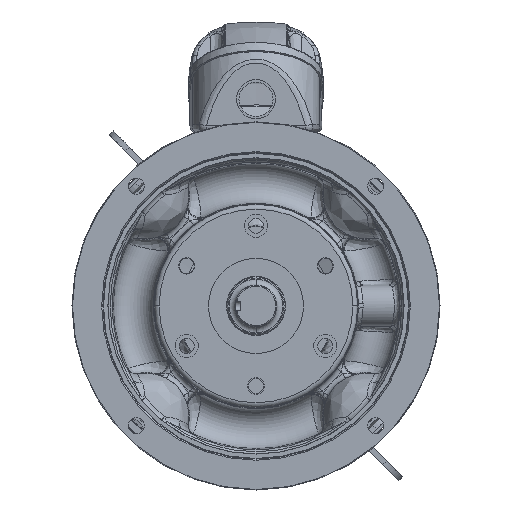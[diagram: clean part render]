
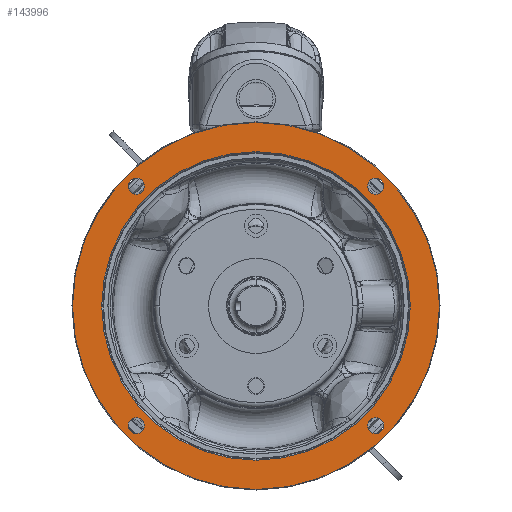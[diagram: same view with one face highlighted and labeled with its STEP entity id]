
A CAD part, front view. The second image highlights one B-rep face of the part: STEP entity #143996.
In plain terms, the highlighted planar face has unit normal (0, -1, 0) as drawn and (0, 0, 1) by its records, which use the part's own axes.
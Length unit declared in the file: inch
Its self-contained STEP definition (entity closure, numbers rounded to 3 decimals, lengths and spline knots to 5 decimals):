
#134333=CARTESIAN_POINT('',(0.,0.,-0.147));
#134334=DIRECTION('',(0.,0.,-1.));
#134335=DIRECTION('',(0.,1.,0.));
#134336=AXIS2_PLACEMENT_3D('',#134333,#134334,#134335);
#134338=CARTESIAN_POINT('',(0.,0.,-0.147));
#134339=DIRECTION('',(0.,0.,1.));
#134340=DIRECTION('',(0.,1.,0.));
#134341=AXIS2_PLACEMENT_3D('',#134338,#134339,#134340);
#134343=CARTESIAN_POINT('',(0.,0.,-0.147));
#134344=DIRECTION('',(0.,0.,1.));
#134345=DIRECTION('',(0.,1.,0.));
#134346=AXIS2_PLACEMENT_3D('',#134343,#134344,#134345);
#134348=CARTESIAN_POINT('',(0.,0.,-0.147));
#134349=DIRECTION('',(0.,0.,1.));
#134350=DIRECTION('',(0.,-1.,0.));
#134351=AXIS2_PLACEMENT_3D('',#134348,#134349,#134350);
#134353=CARTESIAN_POINT('',(-3.22617,3.22617,-0.147));
#134354=DIRECTION('',(0.,0.,-1.));
#134355=DIRECTION('',(-1.,0.,0.));
#134356=AXIS2_PLACEMENT_3D('',#134353,#134354,#134355);
#134358=CARTESIAN_POINT('',(-3.22617,3.22617,-0.147));
#134359=DIRECTION('',(0.,0.,-1.));
#134360=DIRECTION('',(1.,0.,0.));
#134361=AXIS2_PLACEMENT_3D('',#134358,#134359,#134360);
#134363=CARTESIAN_POINT('',(3.22617,3.22617,-0.147));
#134364=DIRECTION('',(0.,0.,-1.));
#134365=DIRECTION('',(-1.,0.,0.));
#134366=AXIS2_PLACEMENT_3D('',#134363,#134364,#134365);
#134368=CARTESIAN_POINT('',(3.22617,3.22617,-0.147));
#134369=DIRECTION('',(0.,0.,-1.));
#134370=DIRECTION('',(1.,0.,0.));
#134371=AXIS2_PLACEMENT_3D('',#134368,#134369,#134370);
#134373=CARTESIAN_POINT('',(3.22617,-3.22617,-0.147));
#134374=DIRECTION('',(0.,0.,-1.));
#134375=DIRECTION('',(-1.,0.,0.));
#134376=AXIS2_PLACEMENT_3D('',#134373,#134374,#134375);
#134378=CARTESIAN_POINT('',(3.22617,-3.22617,-0.147));
#134379=DIRECTION('',(0.,0.,-1.));
#134380=DIRECTION('',(1.,0.,0.));
#134381=AXIS2_PLACEMENT_3D('',#134378,#134379,#134380);
#134383=CARTESIAN_POINT('',(-3.22617,-3.22617,-0.147));
#134384=DIRECTION('',(0.,0.,-1.));
#134385=DIRECTION('',(-1.,0.,0.));
#134386=AXIS2_PLACEMENT_3D('',#134383,#134384,#134385);
#134388=CARTESIAN_POINT('',(-3.22617,-3.22617,-0.147));
#134389=DIRECTION('',(0.,0.,-1.));
#134390=DIRECTION('',(1.,0.,0.));
#134391=AXIS2_PLACEMENT_3D('',#134388,#134389,#134390);
#143623=CARTESIAN_POINT('',(0.,4.156,-0.147));
#143624=VERTEX_POINT('',#143623);
#143651=CARTESIAN_POINT('',(0.,-4.156,-0.147));
#143652=VERTEX_POINT('',#143651);
#143657=CARTESIAN_POINT('',(0.,4.94385,-0.147));
#143658=CARTESIAN_POINT('',(0.,-4.94385,-0.147));
#143659=VERTEX_POINT('',#143657);
#143660=VERTEX_POINT('',#143658);
#143801=CARTESIAN_POINT('',(-3.44517,3.22617,-0.147));
#143802=CARTESIAN_POINT('',(-3.00717,3.22617,-0.147));
#143803=VERTEX_POINT('',#143801);
#143804=VERTEX_POINT('',#143802);
#143809=CARTESIAN_POINT('',(3.00717,3.22617,-0.147));
#143810=CARTESIAN_POINT('',(3.44517,3.22617,-0.147));
#143811=VERTEX_POINT('',#143809);
#143812=VERTEX_POINT('',#143810);
#143817=CARTESIAN_POINT('',(3.00717,-3.22617,-0.147));
#143818=CARTESIAN_POINT('',(3.44517,-3.22617,-0.147));
#143819=VERTEX_POINT('',#143817);
#143820=VERTEX_POINT('',#143818);
#143825=CARTESIAN_POINT('',(-3.44517,-3.22617,-0.147));
#143826=CARTESIAN_POINT('',(-3.00717,-3.22617,-0.147));
#143827=VERTEX_POINT('',#143825);
#143828=VERTEX_POINT('',#143826);
#143956=CARTESIAN_POINT('',(0.,0.,-0.147));
#143957=DIRECTION('',(0.,0.,1.));
#143958=DIRECTION('',(0.,1.,0.));
#143959=AXIS2_PLACEMENT_3D('',#143956,#143957,#143958);
#143960=PLANE('',#143959);
#143961=ORIENTED_EDGE('',*,*,#143945,.F.);
#143963=ORIENTED_EDGE('',*,*,#143962,.F.);
#143964=EDGE_LOOP('',(#143961,#143963));
#143965=FACE_OUTER_BOUND('',#143964,.F.);
#143967=ORIENTED_EDGE('',*,*,#143966,.F.);
#143969=ORIENTED_EDGE('',*,*,#143968,.T.);
#143970=EDGE_LOOP('',(#143967,#143969));
#143971=FACE_BOUND('',#143970,.F.);
#143973=ORIENTED_EDGE('',*,*,#143972,.F.);
#143975=ORIENTED_EDGE('',*,*,#143974,.F.);
#143976=EDGE_LOOP('',(#143973,#143975));
#143977=FACE_BOUND('',#143976,.F.);
#143979=ORIENTED_EDGE('',*,*,#143978,.F.);
#143981=ORIENTED_EDGE('',*,*,#143980,.F.);
#143982=EDGE_LOOP('',(#143979,#143981));
#143983=FACE_BOUND('',#143982,.F.);
#143985=ORIENTED_EDGE('',*,*,#143984,.F.);
#143987=ORIENTED_EDGE('',*,*,#143986,.F.);
#143988=EDGE_LOOP('',(#143985,#143987));
#143989=FACE_BOUND('',#143988,.F.);
#143991=ORIENTED_EDGE('',*,*,#143990,.F.);
#143993=ORIENTED_EDGE('',*,*,#143992,.F.);
#143994=EDGE_LOOP('',(#143991,#143993));
#143995=FACE_BOUND('',#143994,.F.);
#143996=ADVANCED_FACE('',(#143965,#143971,#143977,#143983,#143989,#143995),
#143960,.T.);
#134337=CIRCLE('',#134336,4.156);
#134342=CIRCLE('',#134341,4.156);
#134347=CIRCLE('',#134346,4.94385);
#134352=CIRCLE('',#134351,4.94385);
#134357=CIRCLE('',#134356,0.219);
#134362=CIRCLE('',#134361,0.219);
#134367=CIRCLE('',#134366,0.219);
#134372=CIRCLE('',#134371,0.219);
#134377=CIRCLE('',#134376,0.219);
#134382=CIRCLE('',#134381,0.219);
#134387=CIRCLE('',#134386,0.219);
#134392=CIRCLE('',#134391,0.219);
#143945=EDGE_CURVE('',#143659,#143660,#134347,.T.);
#143962=EDGE_CURVE('',#143660,#143659,#134352,.T.);
#143966=EDGE_CURVE('',#143624,#143652,#134337,.T.);
#143968=EDGE_CURVE('',#143624,#143652,#134342,.T.);
#143972=EDGE_CURVE('',#143803,#143804,#134357,.T.);
#143974=EDGE_CURVE('',#143804,#143803,#134362,.T.);
#143978=EDGE_CURVE('',#143811,#143812,#134367,.T.);
#143980=EDGE_CURVE('',#143812,#143811,#134372,.T.);
#143984=EDGE_CURVE('',#143819,#143820,#134377,.T.);
#143986=EDGE_CURVE('',#143820,#143819,#134382,.T.);
#143990=EDGE_CURVE('',#143827,#143828,#134387,.T.);
#143992=EDGE_CURVE('',#143828,#143827,#134392,.T.);
